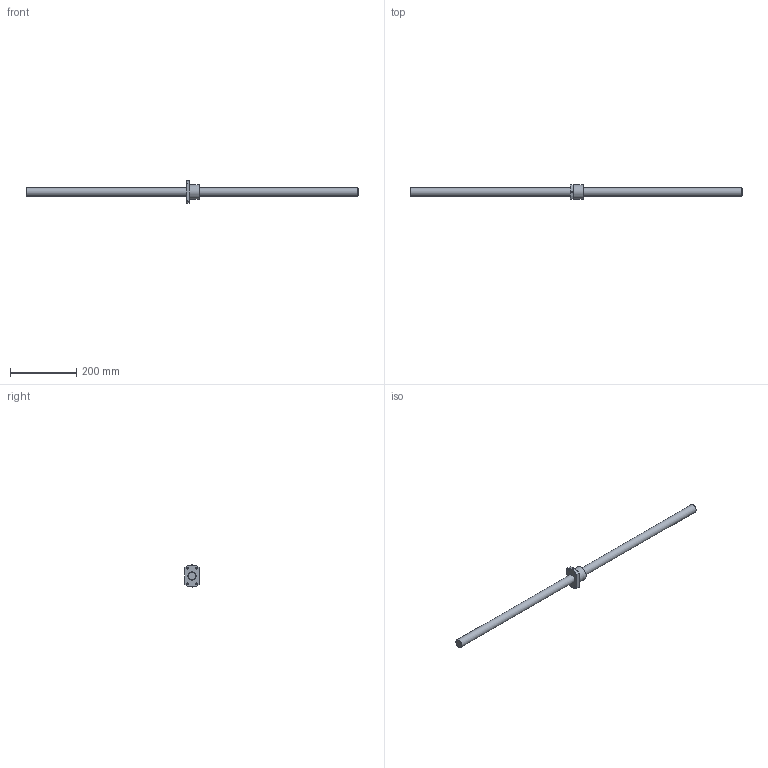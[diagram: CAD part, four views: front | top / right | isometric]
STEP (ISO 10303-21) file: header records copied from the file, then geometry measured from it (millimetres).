
FILE_DESCRIPTION((''),'2;1');
FILE_NAME('D:\製品 (図面)\カタログ用3D\ネジ関連\STEP形式\RBSMA\RBSMA2505-1000.stp','2010-06-02T14:43:45',('Tsuchiya'),(''),'Autodesk Inventor 10','Autodesk Inventor 10','');
FILE_SCHEMA(('AUTOMOTIVE_DESIGN { 1 0 10303 214 1 1 1 1 }'));
Length unit declared in the file: millimetre
Products named in the file (3): RBSMA2505-1000; RBSMA2505-10001; RBSMA2505-10002
Assembly tree (2 placements, depth 2):
  RBSMA2505-1000
    RBSMA2505-10001
    RBSMA2505-10002
Bounding box: 1000 x 43 x 67 mm (x, y, z)
Volume: 540025.9 mm3; surface area: 93631.1 mm2
Topology: 2 solids, 2 shells, 25 faces, 63 edges, 42 vertices
Faces by surface type: cylinder 9, plane 8, cone 7, bspline 1
Full cylindrical faces by diameter (mm): 5.5 x4, 25 x2, 43 x1
Entity records: 891 total; most frequent: CARTESIAN_POINT 276, DIRECTION 120, ORIENTED_EDGE 94, AXIS2_PLACEMENT_3D 55, EDGE_LOOP 48, EDGE_CURVE 47, VERTEX_POINT 37, CIRCLE 26
